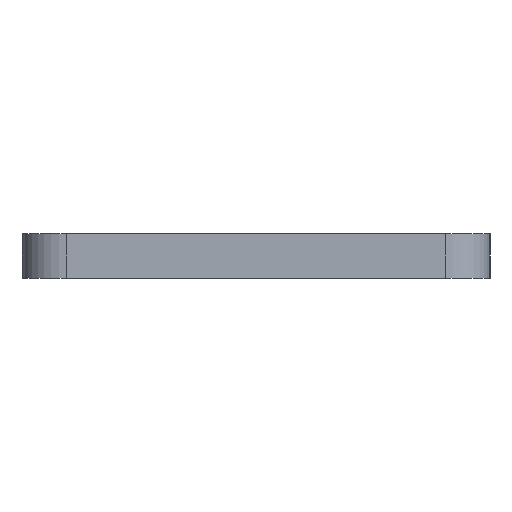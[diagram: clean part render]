
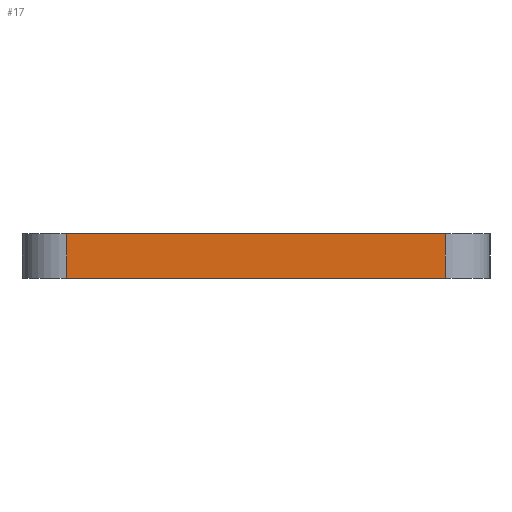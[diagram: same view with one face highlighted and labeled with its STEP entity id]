
A CAD part, left-side view. The second image highlights one B-rep face of the part: STEP entity #17.
In plain terms, the highlighted planar face has unit normal (-1, 0, 0).
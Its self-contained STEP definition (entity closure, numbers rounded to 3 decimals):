
#17 = ADVANCED_FACE('',(#18),#32,.F.);
#18 = FACE_BOUND('',#19,.F.);
#19 = EDGE_LOOP('',(#20,#55,#83,#111));
#20 = ORIENTED_EDGE('',*,*,#21,.F.);
#21 = EDGE_CURVE('',#22,#24,#26,.T.);
#22 = VERTEX_POINT('',#23);
#23 = CARTESIAN_POINT('',(72.5,8.,22.));
#24 = VERTEX_POINT('',#25);
#25 = CARTESIAN_POINT('',(72.5,25.,22.));
#26 = SURFACE_CURVE('',#27,(#31,#43),.PCURVE_S1.);
#27 = LINE('',#28,#29);
#28 = CARTESIAN_POINT('',(72.5,6.,22.));
#29 = VECTOR('',#30,1.);
#30 = DIRECTION('',(0.,1.,0.));
#31 = PCURVE('',#32,#37);
#32 = PLANE('',#33);
#33 = AXIS2_PLACEMENT_3D('',#34,#35,#36);
#34 = CARTESIAN_POINT('',(72.5,6.,20.));
#35 = DIRECTION('',(1.,0.,0.));
#36 = DIRECTION('',(0.,0.,1.));
#37 = DEFINITIONAL_REPRESENTATION('',(#38),#42);
#38 = LINE('',#39,#40);
#39 = CARTESIAN_POINT('',(2.,0.));
#40 = VECTOR('',#41,1.);
#41 = DIRECTION('',(0.,-1.));
#42 = ( GEOMETRIC_REPRESENTATION_CONTEXT(2) 
PARAMETRIC_REPRESENTATION_CONTEXT() REPRESENTATION_CONTEXT('2D SPACE',''
  ) );
#43 = PCURVE('',#44,#49);
#44 = PLANE('',#45);
#45 = AXIS2_PLACEMENT_3D('',#46,#47,#48);
#46 = CARTESIAN_POINT('',(72.5,6.,22.));
#47 = DIRECTION('',(0.,0.,1.));
#48 = DIRECTION('',(1.,0.,0.));
#49 = DEFINITIONAL_REPRESENTATION('',(#50),#54);
#50 = LINE('',#51,#52);
#51 = CARTESIAN_POINT('',(0.,0.));
#52 = VECTOR('',#53,1.);
#53 = DIRECTION('',(0.,1.));
#54 = ( GEOMETRIC_REPRESENTATION_CONTEXT(2) 
PARAMETRIC_REPRESENTATION_CONTEXT() REPRESENTATION_CONTEXT('2D SPACE',''
  ) );
#55 = ORIENTED_EDGE('',*,*,#56,.F.);
#56 = EDGE_CURVE('',#57,#22,#59,.T.);
#57 = VERTEX_POINT('',#58);
#58 = CARTESIAN_POINT('',(72.5,8.,20.));
#59 = SURFACE_CURVE('',#60,(#64,#71),.PCURVE_S1.);
#60 = LINE('',#61,#62);
#61 = CARTESIAN_POINT('',(72.5,8.,20.));
#62 = VECTOR('',#63,1.);
#63 = DIRECTION('',(0.,0.,1.));
#64 = PCURVE('',#32,#65);
#65 = DEFINITIONAL_REPRESENTATION('',(#66),#70);
#66 = LINE('',#67,#68);
#67 = CARTESIAN_POINT('',(0.,-2.));
#68 = VECTOR('',#69,1.);
#69 = DIRECTION('',(1.,0.));
#70 = ( GEOMETRIC_REPRESENTATION_CONTEXT(2) 
PARAMETRIC_REPRESENTATION_CONTEXT() REPRESENTATION_CONTEXT('2D SPACE',''
  ) );
#71 = PCURVE('',#72,#77);
#72 = CYLINDRICAL_SURFACE('',#73,2.);
#73 = AXIS2_PLACEMENT_3D('',#74,#75,#76);
#74 = CARTESIAN_POINT('',(74.5,8.,20.));
#75 = DIRECTION('',(0.,0.,1.));
#76 = DIRECTION('',(-1.,-0.,0.));
#77 = DEFINITIONAL_REPRESENTATION('',(#78),#82);
#78 = LINE('',#79,#80);
#79 = CARTESIAN_POINT('',(0.,0.));
#80 = VECTOR('',#81,1.);
#81 = DIRECTION('',(0.,1.));
#82 = ( GEOMETRIC_REPRESENTATION_CONTEXT(2) 
PARAMETRIC_REPRESENTATION_CONTEXT() REPRESENTATION_CONTEXT('2D SPACE',''
  ) );
#83 = ORIENTED_EDGE('',*,*,#84,.T.);
#84 = EDGE_CURVE('',#57,#85,#87,.T.);
#85 = VERTEX_POINT('',#86);
#86 = CARTESIAN_POINT('',(72.5,25.,20.));
#87 = SURFACE_CURVE('',#88,(#92,#99),.PCURVE_S1.);
#88 = LINE('',#89,#90);
#89 = CARTESIAN_POINT('',(72.5,6.,20.));
#90 = VECTOR('',#91,1.);
#91 = DIRECTION('',(0.,1.,0.));
#92 = PCURVE('',#32,#93);
#93 = DEFINITIONAL_REPRESENTATION('',(#94),#98);
#94 = LINE('',#95,#96);
#95 = CARTESIAN_POINT('',(0.,0.));
#96 = VECTOR('',#97,1.);
#97 = DIRECTION('',(0.,-1.));
#98 = ( GEOMETRIC_REPRESENTATION_CONTEXT(2) 
PARAMETRIC_REPRESENTATION_CONTEXT() REPRESENTATION_CONTEXT('2D SPACE',''
  ) );
#99 = PCURVE('',#100,#105);
#100 = PLANE('',#101);
#101 = AXIS2_PLACEMENT_3D('',#102,#103,#104);
#102 = CARTESIAN_POINT('',(72.5,6.,20.));
#103 = DIRECTION('',(0.,0.,1.));
#104 = DIRECTION('',(1.,0.,0.));
#105 = DEFINITIONAL_REPRESENTATION('',(#106),#110);
#106 = LINE('',#107,#108);
#107 = CARTESIAN_POINT('',(0.,0.));
#108 = VECTOR('',#109,1.);
#109 = DIRECTION('',(0.,1.));
#110 = ( GEOMETRIC_REPRESENTATION_CONTEXT(2) 
PARAMETRIC_REPRESENTATION_CONTEXT() REPRESENTATION_CONTEXT('2D SPACE',''
  ) );
#111 = ORIENTED_EDGE('',*,*,#112,.T.);
#112 = EDGE_CURVE('',#85,#24,#113,.T.);
#113 = SURFACE_CURVE('',#114,(#118,#125),.PCURVE_S1.);
#114 = LINE('',#115,#116);
#115 = CARTESIAN_POINT('',(72.5,25.,20.));
#116 = VECTOR('',#117,1.);
#117 = DIRECTION('',(0.,0.,1.));
#118 = PCURVE('',#32,#119);
#119 = DEFINITIONAL_REPRESENTATION('',(#120),#124);
#120 = LINE('',#121,#122);
#121 = CARTESIAN_POINT('',(0.,-19.));
#122 = VECTOR('',#123,1.);
#123 = DIRECTION('',(1.,0.));
#124 = ( GEOMETRIC_REPRESENTATION_CONTEXT(2) 
PARAMETRIC_REPRESENTATION_CONTEXT() REPRESENTATION_CONTEXT('2D SPACE',''
  ) );
#125 = PCURVE('',#126,#131);
#126 = CYLINDRICAL_SURFACE('',#127,2.);
#127 = AXIS2_PLACEMENT_3D('',#128,#129,#130);
#128 = CARTESIAN_POINT('',(74.5,25.,20.));
#129 = DIRECTION('',(0.,0.,1.));
#130 = DIRECTION('',(-1.,-0.,0.));
#131 = DEFINITIONAL_REPRESENTATION('',(#132),#136);
#132 = LINE('',#133,#134);
#133 = CARTESIAN_POINT('',(-0.,0.));
#134 = VECTOR('',#135,1.);
#135 = DIRECTION('',(-0.,1.));
#136 = ( GEOMETRIC_REPRESENTATION_CONTEXT(2) 
PARAMETRIC_REPRESENTATION_CONTEXT() REPRESENTATION_CONTEXT('2D SPACE',''
  ) );
